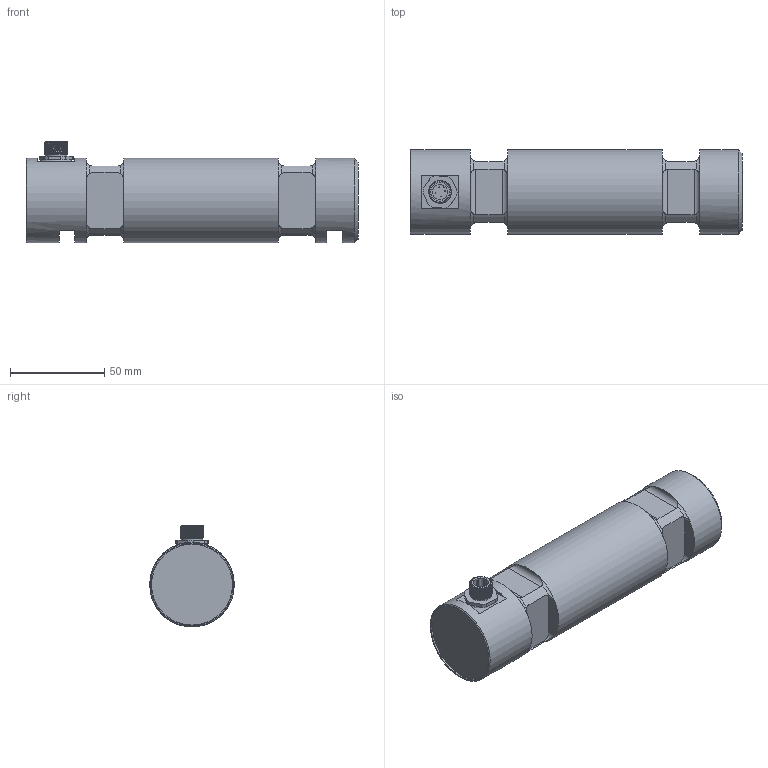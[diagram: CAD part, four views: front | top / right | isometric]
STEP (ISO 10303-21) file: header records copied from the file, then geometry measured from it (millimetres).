
FILE_DESCRIPTION(/* description */ ('Alibre Inc.'),/* implementation_level */ '2;1');
FILE_NAME(/* name */ 'export0',/* time_stamp */ '2017-10-04T20:56:43+02:00',/* author */ (''),/* organization */ (''),/* preprocessor_version */ 'ST-DEVELOPER v14',/* originating_system */ 'Alibre',/* authorisation */ '');
FILE_SCHEMA (('CONFIG_CONTROL_DESIGN'));
Length unit declared in the file: centimetre
Products named in the file (6): ID_1; ID_2; ID_3; ID_4
Bounding box: 176.5 x 45 x 54.12 mm (x, y, z)
Volume: 256636 mm3; surface area: 34021.5 mm2
Topology: 8 solids, 8 shells, 203 faces, 465 edges, 285 vertices
Faces by surface type: plane 86, cylinder 71, bspline 23, torus 17, cone 6
Full cylindrical faces by diameter (mm): 0.5 x8, 8 x2, 10 x4, 11.5 x1, 13 x1, 14.376 x1, 43 x1, 45 x3
Entity records: 18625 total; most frequent: CARTESIAN_POINT 14388, ORIENTED_EDGE 850, DIRECTION 522, EDGE_CURVE 420, VERTEX_POINT 271, FACE_BOUND 248, EDGE_LOOP 247, AXIS2_PLACEMENT_3D 231
